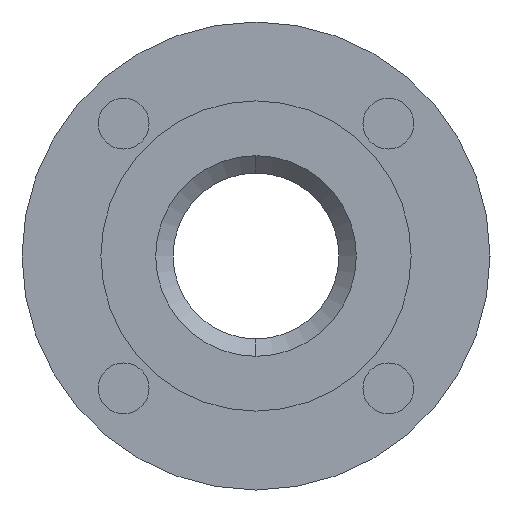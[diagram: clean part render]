
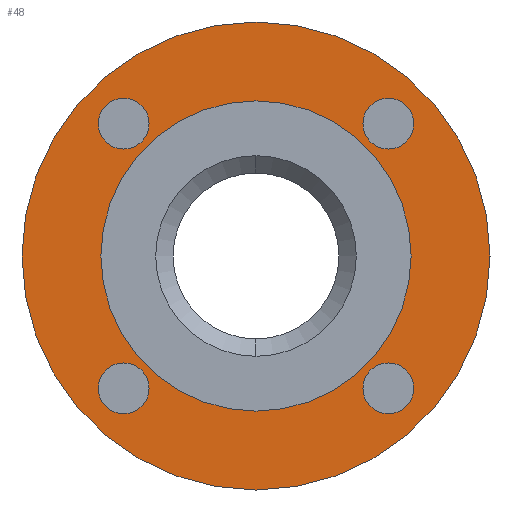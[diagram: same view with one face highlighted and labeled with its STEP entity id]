
A CAD part, left-side view. The second image highlights one B-rep face of the part: STEP entity #48.
In plain terms, the highlighted planar face has unit normal (-1, 0, 0).
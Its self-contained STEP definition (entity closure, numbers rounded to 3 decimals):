
#48=ADVANCED_FACE('',(#244,#245,#246,#247,#248,#249),#243,.F.);
#243=PLANE('',#1338);
#244=FACE_OUTER_BOUND('',#1339,.T.);
#245=FACE_BOUND('',#1340,.T.);
#246=FACE_BOUND('',#1341,.T.);
#247=FACE_BOUND('',#1342,.T.);
#248=FACE_BOUND('',#1343,.T.);
#249=FACE_BOUND('',#1344,.T.);
#1335=CARTESIAN_POINT('',(2.,-161.554,97.5));
#1336=DIRECTION('',(1.,0.,0.));
#1337=DIRECTION('',(0.,0.,-1.));
#1338=AXIS2_PLACEMENT_3D('',#1335,#1336,#1337);
#1339=EDGE_LOOP('',(#2359,#2360));
#1340=EDGE_LOOP('',(#2361,#2362));
#1341=EDGE_LOOP('',(#2363,#2364));
#1342=EDGE_LOOP('',(#2365,#2366));
#1343=EDGE_LOOP('',(#2367,#2368));
#1344=EDGE_LOOP('',(#2369,#2370));
#2359=ORIENTED_EDGE('',*,*,#2859,.T.);
#2360=ORIENTED_EDGE('',*,*,#2860,.T.);
#2361=ORIENTED_EDGE('',*,*,#2861,.F.);
#2362=ORIENTED_EDGE('',*,*,#2862,.F.);
#2363=ORIENTED_EDGE('',*,*,#2863,.F.);
#2364=ORIENTED_EDGE('',*,*,#2864,.F.);
#2365=ORIENTED_EDGE('',*,*,#2865,.F.);
#2366=ORIENTED_EDGE('',*,*,#2866,.F.);
#2367=ORIENTED_EDGE('',*,*,#2867,.F.);
#2368=ORIENTED_EDGE('',*,*,#2868,.F.);
#2369=ORIENTED_EDGE('',*,*,#2869,.F.);
#2370=ORIENTED_EDGE('',*,*,#2870,.F.);
#2859=EDGE_CURVE('',#3415,#3416,#3417,.T.);
#2860=EDGE_CURVE('',#3416,#3415,#3423,.T.);
#2861=EDGE_CURVE('',#3429,#3430,#3431,.T.);
#2862=EDGE_CURVE('',#3430,#3429,#3437,.T.);
#2863=EDGE_CURVE('',#3443,#3444,#3445,.T.);
#2864=EDGE_CURVE('',#3444,#3443,#3451,.T.);
#2865=EDGE_CURVE('',#3457,#3458,#3459,.T.);
#2866=EDGE_CURVE('',#3458,#3457,#3465,.T.);
#2867=EDGE_CURVE('',#3471,#3472,#3473,.T.);
#2868=EDGE_CURVE('',#3472,#3471,#3479,.T.);
#2869=EDGE_CURVE('',#3485,#3486,#3487,.T.);
#2870=EDGE_CURVE('',#3486,#3485,#3493,.T.);
#3415=VERTEX_POINT('',#4954);
#3416=VERTEX_POINT('',#4955);
#3417=CIRCLE('',#4959,87.5);
#3423=CIRCLE('',#4963,87.5);
#3429=VERTEX_POINT('',#4964);
#3430=VERTEX_POINT('',#4965);
#3431=CIRCLE('',#4969,9.5);
#3437=CIRCLE('',#4973,9.5);
#3443=VERTEX_POINT('',#4974);
#3444=VERTEX_POINT('',#4975);
#3445=CIRCLE('',#4979,9.5);
#3451=CIRCLE('',#4983,9.5);
#3457=VERTEX_POINT('',#4984);
#3458=VERTEX_POINT('',#4985);
#3459=CIRCLE('',#4989,9.5);
#3465=CIRCLE('',#4993,9.5);
#3471=VERTEX_POINT('',#4994);
#3472=VERTEX_POINT('',#4995);
#3473=CIRCLE('',#4999,58.);
#3479=CIRCLE('',#5003,58.);
#3485=VERTEX_POINT('',#5004);
#3486=VERTEX_POINT('',#5005);
#3487=CIRCLE('',#5009,9.5);
#3493=CIRCLE('',#5013,9.5);
#4954=CARTESIAN_POINT('',(2.,0.,87.5));
#4955=CARTESIAN_POINT('',(2.,0.,-87.5));
#4956=CARTESIAN_POINT('',(2.,0.,0.));
#4957=DIRECTION('',(-1.,0.,0.));
#4958=DIRECTION('',(0.,0.,1.));
#4959=AXIS2_PLACEMENT_3D('',#4956,#4957,#4958);
#4960=CARTESIAN_POINT('',(2.,0.,0.));
#4961=DIRECTION('',(-1.,0.,0.));
#4962=DIRECTION('',(0.,0.,1.));
#4963=AXIS2_PLACEMENT_3D('',#4960,#4961,#4962);
#4964=CARTESIAN_POINT('',(2.,49.497,-39.997));
#4965=CARTESIAN_POINT('',(2.,49.497,-58.997));
#4966=CARTESIAN_POINT('',(2.,49.497,-49.497));
#4967=DIRECTION('',(-1.,0.,0.));
#4968=DIRECTION('',(0.,0.,-1.));
#4969=AXIS2_PLACEMENT_3D('',#4966,#4967,#4968);
#4970=CARTESIAN_POINT('',(2.,49.497,-49.497));
#4971=DIRECTION('',(-1.,0.,0.));
#4972=DIRECTION('',(0.,0.,-1.));
#4973=AXIS2_PLACEMENT_3D('',#4970,#4971,#4972);
#4974=CARTESIAN_POINT('',(2.,-49.497,-39.997));
#4975=CARTESIAN_POINT('',(2.,-49.497,-58.997));
#4976=CARTESIAN_POINT('',(2.,-49.497,-49.497));
#4977=DIRECTION('',(-1.,0.,0.));
#4978=DIRECTION('',(0.,0.,-1.));
#4979=AXIS2_PLACEMENT_3D('',#4976,#4977,#4978);
#4980=CARTESIAN_POINT('',(2.,-49.497,-49.497));
#4981=DIRECTION('',(-1.,0.,0.));
#4982=DIRECTION('',(0.,0.,-1.));
#4983=AXIS2_PLACEMENT_3D('',#4980,#4981,#4982);
#4984=CARTESIAN_POINT('',(2.,-49.497,58.997));
#4985=CARTESIAN_POINT('',(2.,-49.497,39.997));
#4986=CARTESIAN_POINT('',(2.,-49.497,49.497));
#4987=DIRECTION('',(-1.,0.,0.));
#4988=DIRECTION('',(0.,0.,-1.));
#4989=AXIS2_PLACEMENT_3D('',#4986,#4987,#4988);
#4990=CARTESIAN_POINT('',(2.,-49.497,49.497));
#4991=DIRECTION('',(-1.,0.,0.));
#4992=DIRECTION('',(0.,0.,-1.));
#4993=AXIS2_PLACEMENT_3D('',#4990,#4991,#4992);
#4994=CARTESIAN_POINT('',(2.,0.,-58.));
#4995=CARTESIAN_POINT('',(2.,0.,58.));
#4996=CARTESIAN_POINT('',(2.,0.,0.));
#4997=DIRECTION('',(-1.,0.,0.));
#4998=DIRECTION('',(0.,0.,1.));
#4999=AXIS2_PLACEMENT_3D('',#4996,#4997,#4998);
#5000=CARTESIAN_POINT('',(2.,0.,0.));
#5001=DIRECTION('',(-1.,0.,0.));
#5002=DIRECTION('',(0.,0.,1.));
#5003=AXIS2_PLACEMENT_3D('',#5000,#5001,#5002);
#5004=CARTESIAN_POINT('',(2.,49.497,58.997));
#5005=CARTESIAN_POINT('',(2.,49.497,39.997));
#5006=CARTESIAN_POINT('',(2.,49.497,49.497));
#5007=DIRECTION('',(-1.,0.,0.));
#5008=DIRECTION('',(0.,0.,-1.));
#5009=AXIS2_PLACEMENT_3D('',#5006,#5007,#5008);
#5010=CARTESIAN_POINT('',(2.,49.497,49.497));
#5011=DIRECTION('',(-1.,0.,0.));
#5012=DIRECTION('',(0.,0.,-1.));
#5013=AXIS2_PLACEMENT_3D('',#5010,#5011,#5012);
